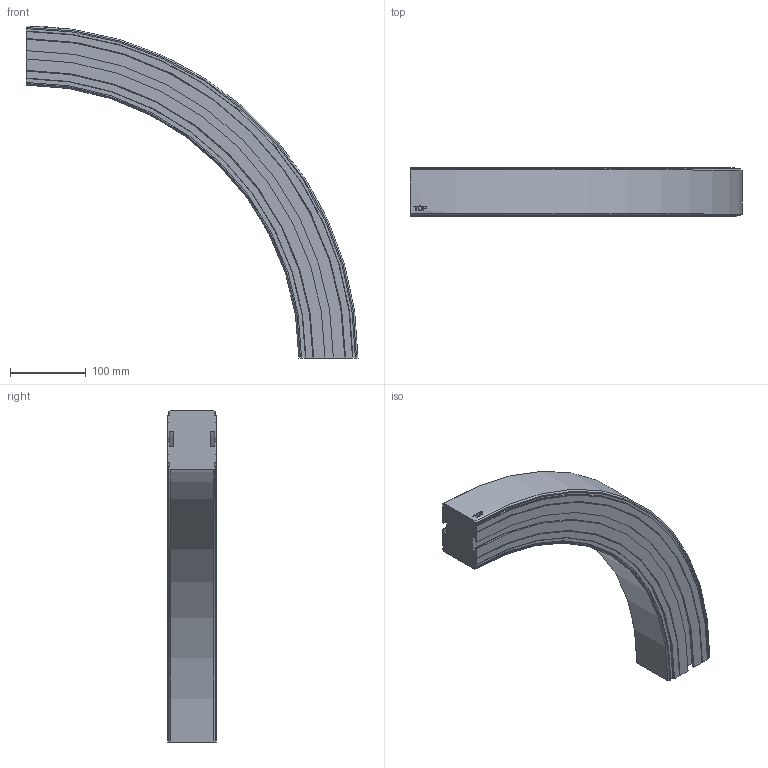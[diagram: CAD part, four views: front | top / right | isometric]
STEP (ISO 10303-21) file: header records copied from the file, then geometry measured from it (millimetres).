
FILE_DESCRIPTION((''),'2;1');
FILE_NAME('C:\Vault Klient\Projekt\Koncept konstruktion\Serie 620 Balk\620-5640_DOWN.stp','2009-11-26T15:46:41',('Mathias'),(''),'Autodesk Inventor 2010','Autodesk Inventor 2010','');
FILE_SCHEMA(('AUTOMOTIVE_DESIGN { 1 0 10303 214 1 1 1 1 }'));
Length unit declared in the file: millimetre
Products named in the file (1): 620-5640_DOWN
Bounding box: 438 x 64 x 438 mm (x, y, z)
Volume: 2914713.6 mm3; surface area: 235383.7 mm2
Topology: 1 solids, 1 shells, 93 faces, 258 edges, 172 vertices
Faces by surface type: plane 40, cylinder 23, bspline 14, cone 12, torus 4
Entity records: 3397 total; most frequent: CARTESIAN_POINT 962, ORIENTED_EDGE 516, DIRECTION 472, EDGE_CURVE 258, VERTEX_POINT 172, AXIS2_PLACEMENT_3D 162, VECTOR 148, LINE 148
